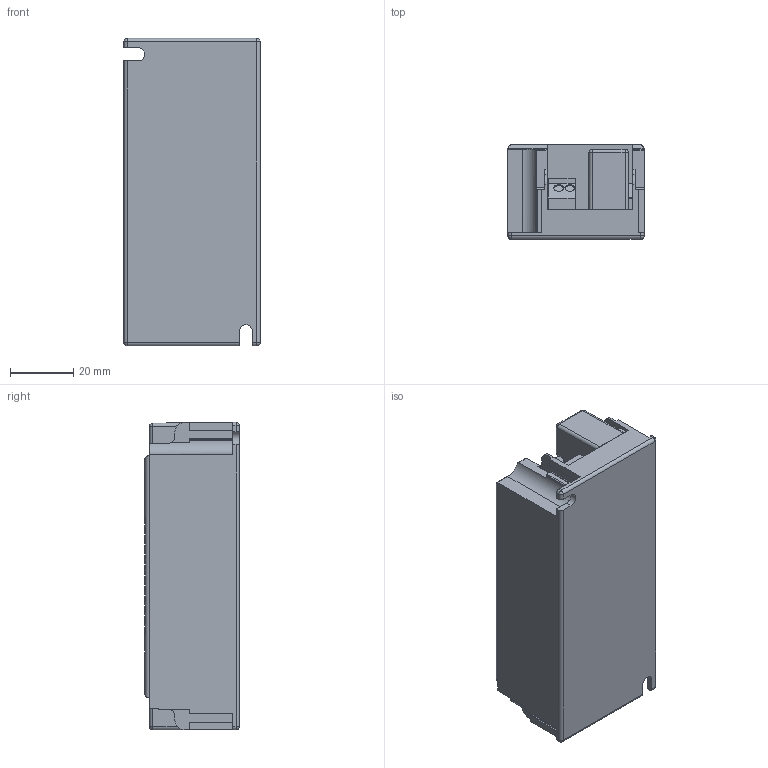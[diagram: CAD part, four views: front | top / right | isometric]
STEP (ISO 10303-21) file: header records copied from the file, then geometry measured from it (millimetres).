
FILE_DESCRIPTION((''),'2;1');
FILE_NAME('15011564_00','2017-10-08T',('elon.guo'),(''),'PRO/ENGINEER BY PARAMETRIC TECHNOLOGY CORPORATION, 2015200','PRO/ENGINEER BY PARAMETRIC TECHNOLOGY CORPORATION, 2015200','');
FILE_SCHEMA(('AUTOMOTIVE_DESIGN { 1 0 10303 214 1 1 1 1 }'));
Length unit declared in the file: millimetre
Products named in the file (1): 15011564_00
Bounding box: 43 x 29.8 x 97.06 mm (x, y, z)
Volume: 109712.8 mm3; surface area: 19404.9 mm2
Topology: 1 solids, 1 shells, 330 faces, 933 edges, 599 vertices
Faces by surface type: plane 195, cylinder 121, sphere 12, torus 2
Entity records: 14011 total; most frequent: CARTESIAN_POINT 1996, ORIENTED_EDGE 1842, DIRECTION 1830, PRESENTATION_STYLE_ASSIGNMENT 946, STYLED_ITEM 922, CURVE_STYLE 921, EDGE_CURVE 921, VECTOR 626
